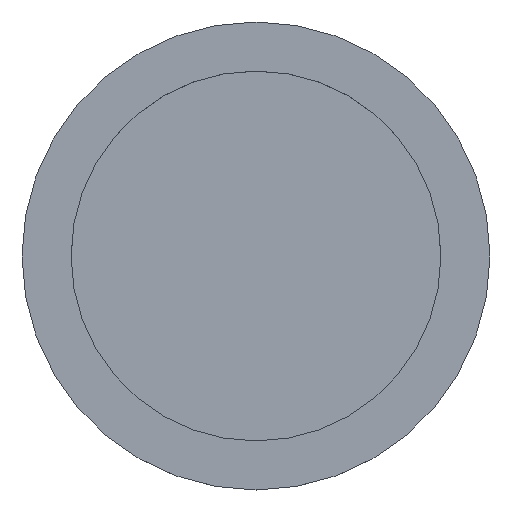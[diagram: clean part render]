
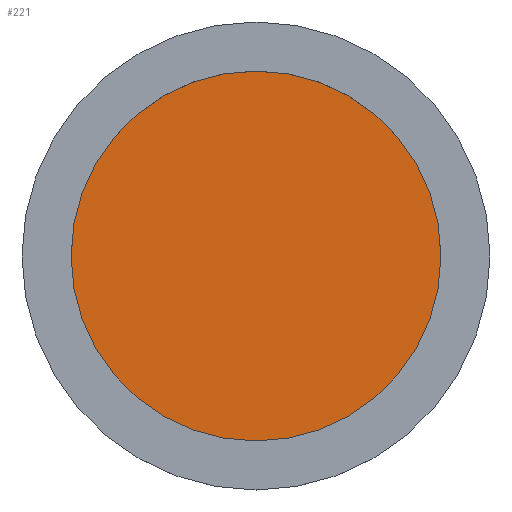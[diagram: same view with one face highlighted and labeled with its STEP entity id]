
A CAD part, top view. The second image highlights one B-rep face of the part: STEP entity #221.
In plain terms, the highlighted planar face has unit normal (0, 0, 1).
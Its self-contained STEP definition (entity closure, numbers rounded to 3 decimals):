
#190=CARTESIAN_POINT('',(81.0,0.,7.0));
#191=VERTEX_POINT('',#190);
#192=CARTESIAN_POINT('',(0.0,0.0,7.0));
#193=DIRECTION('',(0.0,0.0,1.0));
#194=DIRECTION('',(-1.0,0.0,0.0));
#195=AXIS2_PLACEMENT_3D('',#192,#193,#194);
#196=CIRCLE('',#195,81.0);
#197=EDGE_CURVE('',#191,#191,#196,.T.);
#213=CARTESIAN_POINT('',(0.0,0.0,7.0));
#214=DIRECTION('',(0.0,0.0,-1.0));
#215=DIRECTION('',(-1.0,0.0,0.0));
#216=AXIS2_PLACEMENT_3D('',#213,#214,#215);
#217=PLANE('',#216);
#218=ORIENTED_EDGE('',*,*,#197,.T.);
#219=EDGE_LOOP('',(#218));
#220=FACE_OUTER_BOUND('',#219,.T.);
#221=ADVANCED_FACE('',(#220),#217,.F.);
